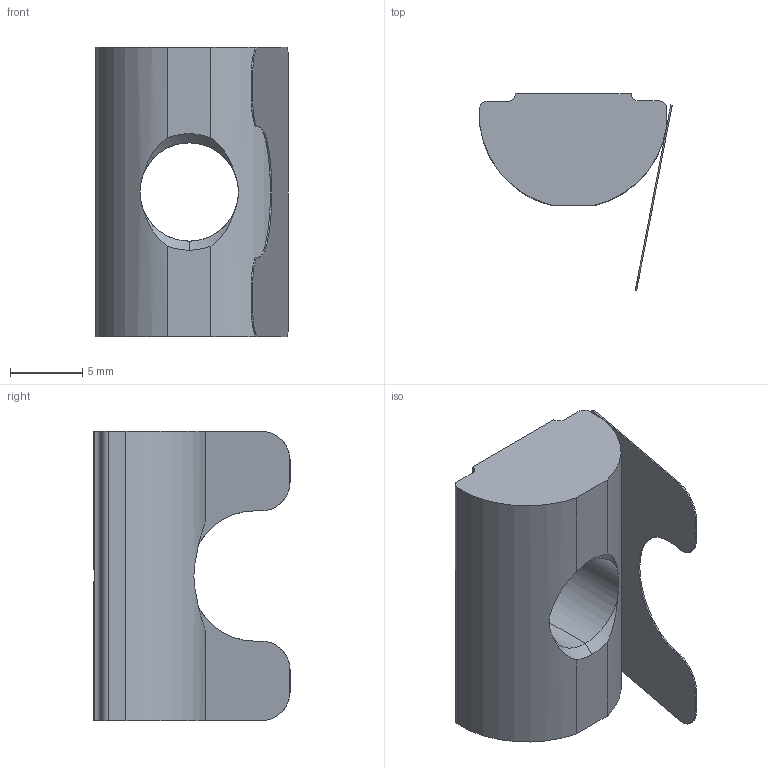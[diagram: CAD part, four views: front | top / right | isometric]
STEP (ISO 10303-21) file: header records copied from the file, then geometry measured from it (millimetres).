
FILE_DESCRIPTION (( 'STEP AP214' ), '1' );
FILE_NAME ('1.2125 T-uramutteri M8 jousella.STEP', '2025-09-05T10:34:17', ( '' ), ( '' ), 'SwSTEP 2.0', 'SolidWorks 2025', '' );
FILE_SCHEMA (( 'AUTOMOTIVE_DESIGN' ));
Length unit declared in the file: millimetre
Products named in the file (1): 1.2125 T-uramutteri M8 jousella
Bounding box: 13.29 x 13.56 x 20 mm (x, y, z)
Surface area: 1350 mm2 (no closed solid volume)
Topology: 0 solids, 2 shells, 41 faces, 114 edges, 75 vertices
Faces by surface type: plane 21, cylinder 15, cone 5
Entity records: 1833 total; most frequent: CARTESIAN_POINT 297, ORIENTED_EDGE 228, DIRECTION 227, EDGE_CURVE 114, AXIS2_PLACEMENT_3D 81, VERTEX_POINT 75, LINE 65, VECTOR 65
